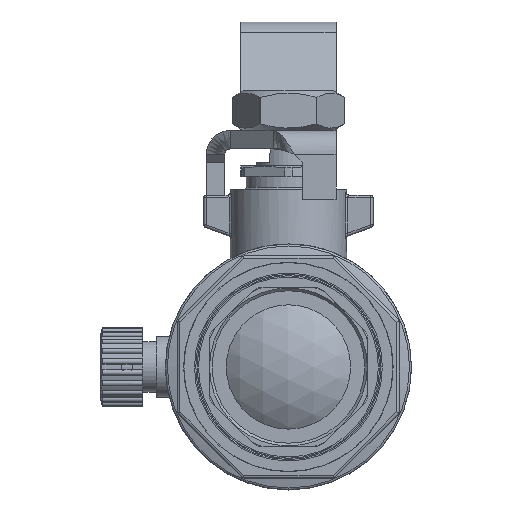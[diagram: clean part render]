
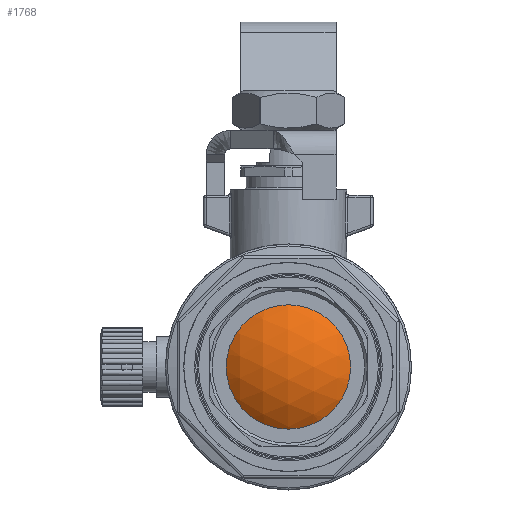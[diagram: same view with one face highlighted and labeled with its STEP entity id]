
A CAD part, left-side view. The second image highlights one B-rep face of the part: STEP entity #1768.
In plain terms, the highlighted spherical face has radius 0.788 mm.
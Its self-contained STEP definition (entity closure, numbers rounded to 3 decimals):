
#1553 = TOROIDAL_SURFACE('',#1554,0.508,0.016);
#1554 = AXIS2_PLACEMENT_3D('',#1555,#1556,#1557);
#1555 = CARTESIAN_POINT('',(-219.614,0.,16.828)
  );
#1556 = DIRECTION('',(-1.,0.,0.));
#1557 = DIRECTION('',(0.,-1.,0.));
#1646 = VERTEX_POINT('',#1647);
#1647 = CARTESIAN_POINT('',(-219.626,0.,
    17.347));
#1671 = EDGE_CURVE('',#1646,#1672,#1674,.T.);
#1672 = VERTEX_POINT('',#1673);
#1673 = CARTESIAN_POINT('',(-219.626,0.519,16.828));
#1674 = SURFACE_CURVE('',#1675,(#1680,#1687),.PCURVE_S1.);
#1675 = CIRCLE('',#1676,0.519);
#1676 = AXIS2_PLACEMENT_3D('',#1677,#1678,#1679);
#1677 = CARTESIAN_POINT('',(-219.626,0.,16.828)
  );
#1678 = DIRECTION('',(-1.,0.,0.));
#1679 = DIRECTION('',(0.,0.,-1.));
#1680 = PCURVE('',#1553,#1681);
#1681 = DEFINITIONAL_REPRESENTATION('',(#1682),#1686);
#1682 = LINE('',#1683,#1684);
#1683 = CARTESIAN_POINT('',(-1.571,7.136));
#1684 = VECTOR('',#1685,1.);
#1685 = DIRECTION('',(1.,0.));
#1686 = ( GEOMETRIC_REPRESENTATION_CONTEXT(2) 
PARAMETRIC_REPRESENTATION_CONTEXT() REPRESENTATION_CONTEXT('2D SPACE',''
  ) );
#1687 = PCURVE('',#1688,#1693);
#1688 = SPHERICAL_SURFACE('',#1689,0.788);
#1689 = AXIS2_PLACEMENT_3D('',#1690,#1691,#1692);
#1690 = CARTESIAN_POINT('',(-219.033,0.,16.828));
#1691 = DIRECTION('',(0.,1.,0.));
#1692 = DIRECTION('',(-1.,0.,0.));
#1693 = DEFINITIONAL_REPRESENTATION('',(#1694),#1720);
#1694 = B_SPLINE_CURVE_WITH_KNOTS('',3,(#1695,#1696,#1697,#1698,#1699,
    #1700,#1701,#1702,#1703,#1704,#1705,#1706,#1707,#1708,#1709,#1710,
    #1711,#1712,#1713,#1714,#1715,#1716,#1717,#1718,#1719),
  .UNSPECIFIED.,.F.,.F.,(4,1,1,1,1,1,1,1,1,1,1,1,1,1,1,1,1,1,1,1,1,1,4),
  (3.142,3.213,3.284,3.356,
    3.427,3.499,3.57,3.641,
    3.713,3.784,3.856,3.927,
    3.998,4.07,4.141,4.213,
    4.284,4.355,4.427,4.498,
    4.57,4.641,4.712),
  .QUASI_UNIFORM_KNOTS.);
#1695 = CARTESIAN_POINT('',(0.718,0.));
#1696 = CARTESIAN_POINT('',(0.718,0.016));
#1697 = CARTESIAN_POINT('',(0.718,0.047));
#1698 = CARTESIAN_POINT('',(0.714,0.094));
#1699 = CARTESIAN_POINT('',(0.707,0.14));
#1700 = CARTESIAN_POINT('',(0.698,0.187));
#1701 = CARTESIAN_POINT('',(0.687,0.232));
#1702 = CARTESIAN_POINT('',(0.672,0.277));
#1703 = CARTESIAN_POINT('',(0.655,0.321));
#1704 = CARTESIAN_POINT('',(0.635,0.364));
#1705 = CARTESIAN_POINT('',(0.611,0.406));
#1706 = CARTESIAN_POINT('',(0.584,0.446));
#1707 = CARTESIAN_POINT('',(0.554,0.484));
#1708 = CARTESIAN_POINT('',(0.521,0.521));
#1709 = CARTESIAN_POINT('',(0.483,0.555));
#1710 = CARTESIAN_POINT('',(0.442,0.587));
#1711 = CARTESIAN_POINT('',(0.397,0.616));
#1712 = CARTESIAN_POINT('',(0.349,0.642));
#1713 = CARTESIAN_POINT('',(0.297,0.665));
#1714 = CARTESIAN_POINT('',(0.242,0.684));
#1715 = CARTESIAN_POINT('',(0.184,0.699));
#1716 = CARTESIAN_POINT('',(0.124,0.71));
#1717 = CARTESIAN_POINT('',(0.062,0.717));
#1718 = CARTESIAN_POINT('',(0.021,0.718));
#1719 = CARTESIAN_POINT('',(0.,0.718));
#1720 = ( GEOMETRIC_REPRESENTATION_CONTEXT(2) 
PARAMETRIC_REPRESENTATION_CONTEXT() REPRESENTATION_CONTEXT('2D SPACE',''
  ) );
#1722 = EDGE_CURVE('',#1672,#1646,#1723,.T.);
#1723 = SURFACE_CURVE('',#1724,(#1729,#1736),.PCURVE_S1.);
#1724 = CIRCLE('',#1725,0.519);
#1725 = AXIS2_PLACEMENT_3D('',#1726,#1727,#1728);
#1726 = CARTESIAN_POINT('',(-219.626,0.,16.828)
  );
#1727 = DIRECTION('',(-1.,0.,0.));
#1728 = DIRECTION('',(0.,0.,-1.));
#1729 = PCURVE('',#1553,#1730);
#1730 = DEFINITIONAL_REPRESENTATION('',(#1731),#1735);
#1731 = LINE('',#1732,#1733);
#1732 = CARTESIAN_POINT('',(-1.571,7.136));
#1733 = VECTOR('',#1734,1.);
#1734 = DIRECTION('',(1.,0.));
#1735 = ( GEOMETRIC_REPRESENTATION_CONTEXT(2) 
PARAMETRIC_REPRESENTATION_CONTEXT() REPRESENTATION_CONTEXT('2D SPACE',''
  ) );
#1736 = PCURVE('',#1688,#1737);
#1737 = DEFINITIONAL_REPRESENTATION('',(#1738),#1764);
#1738 = B_SPLINE_CURVE_WITH_KNOTS('',3,(#1739,#1740,#1741,#1742,#1743,
    #1744,#1745,#1746,#1747,#1748,#1749,#1750,#1751,#1752,#1753,#1754,
    #1755,#1756,#1757,#1758,#1759,#1760,#1761,#1762,#1763),
  .UNSPECIFIED.,.F.,.F.,(4,1,1,1,1,1,1,1,1,1,1,1,1,1,1,1,1,1,1,1,1,1,4),
  (4.712,4.927,5.141,5.355,
    5.569,5.783,5.998,6.212,
    6.426,6.64,6.854,7.069,
    7.283,7.497,7.711,7.925,
    8.14,8.354,8.568,8.782,
    8.996,9.211,9.425),
  .QUASI_UNIFORM_KNOTS.);
#1739 = CARTESIAN_POINT('',(0.,0.718));
#1740 = CARTESIAN_POINT('',(-0.063,0.719));
#1741 = CARTESIAN_POINT('',(-0.187,0.705));
#1742 = CARTESIAN_POINT('',(-0.354,0.647));
#1743 = CARTESIAN_POINT('',(-0.488,0.559));
#1744 = CARTESIAN_POINT('',(-0.589,0.448));
#1745 = CARTESIAN_POINT('',(-0.659,0.322));
#1746 = CARTESIAN_POINT('',(-0.702,0.187));
#1747 = CARTESIAN_POINT('',(-0.721,0.047));
#1748 = CARTESIAN_POINT('',(-0.717,-0.094));
#1749 = CARTESIAN_POINT('',(-0.69,-0.233));
#1750 = CARTESIAN_POINT('',(-0.639,-0.366));
#1751 = CARTESIAN_POINT('',(-0.559,-0.487));
#1752 = CARTESIAN_POINT('',(-0.447,-0.591));
#1753 = CARTESIAN_POINT('',(-0.301,-0.67));
#1754 = CARTESIAN_POINT('',(-0.126,-0.716));
#1755 = CARTESIAN_POINT('',(0.064,-0.723));
#1756 = CARTESIAN_POINT('',(0.246,-0.689));
#1757 = CARTESIAN_POINT('',(0.402,-0.62));
#1758 = CARTESIAN_POINT('',(0.525,-0.524));
#1759 = CARTESIAN_POINT('',(0.616,-0.408));
#1760 = CARTESIAN_POINT('',(0.676,-0.278));
#1761 = CARTESIAN_POINT('',(0.711,-0.141));
#1762 = CARTESIAN_POINT('',(0.718,-0.047));
#1763 = CARTESIAN_POINT('',(0.718,0.));
#1764 = ( GEOMETRIC_REPRESENTATION_CONTEXT(2) 
PARAMETRIC_REPRESENTATION_CONTEXT() REPRESENTATION_CONTEXT('2D SPACE',''
  ) );
#1768 = ADVANCED_FACE('',(#1769),#1688,.T.);
#1769 = FACE_BOUND('',#1770,.T.);
#1770 = EDGE_LOOP('',(#1771,#1772));
#1771 = ORIENTED_EDGE('',*,*,#1722,.T.);
#1772 = ORIENTED_EDGE('',*,*,#1671,.T.);
